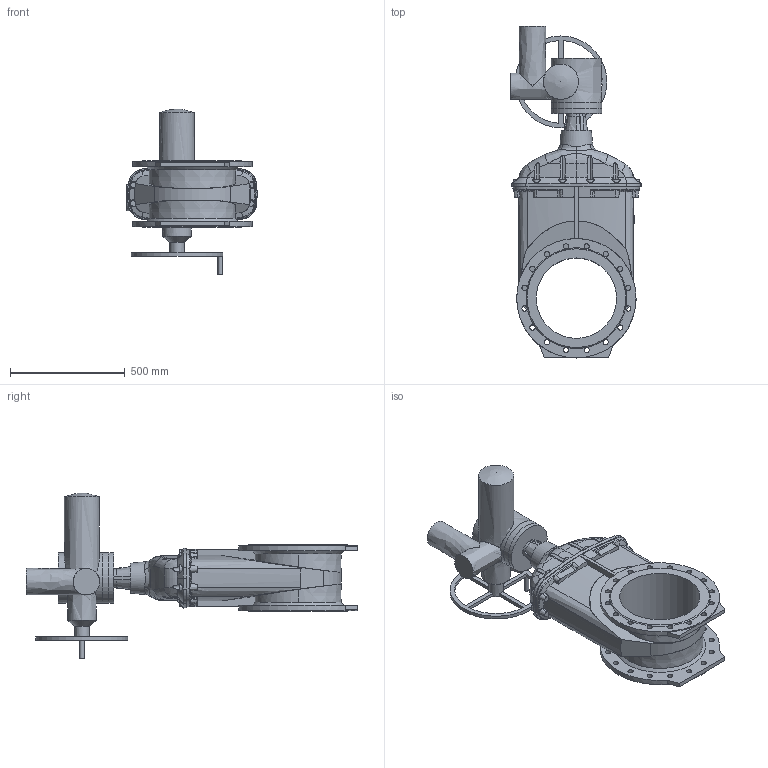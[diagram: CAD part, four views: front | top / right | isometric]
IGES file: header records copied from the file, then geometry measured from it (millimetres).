
Start section: SolidWorks IGES file using analytic representation for surfaces
Global section: file name: \\avksan2\techshare\PBM outline export from Enovia\O_15_40_DN350_X0X_SA14.6_AA0.igs; native system: SolidWorks 2012; preprocessor: SolidWorks 2012; author: pbm; date: 170320.131040; units: inch
Bounding box: 567 x 1445.5 x 721 mm (x, y, z)
Surface area: 2638834 mm2 (no closed solid volume)
Topology: 0 solids, 0 shells, 393 faces, 2455 edges, 2403 vertices
Faces by surface type: revolution 228, bspline 165
